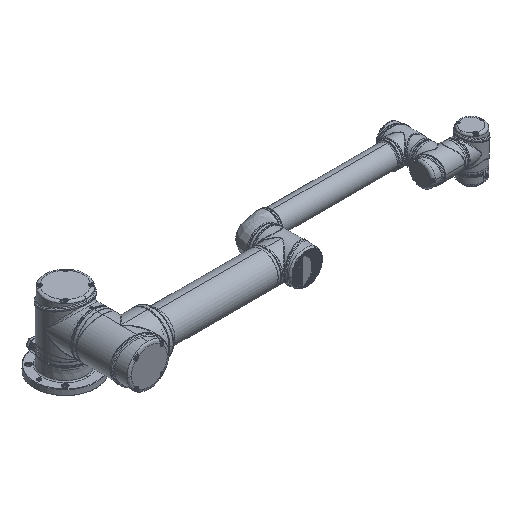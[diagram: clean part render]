
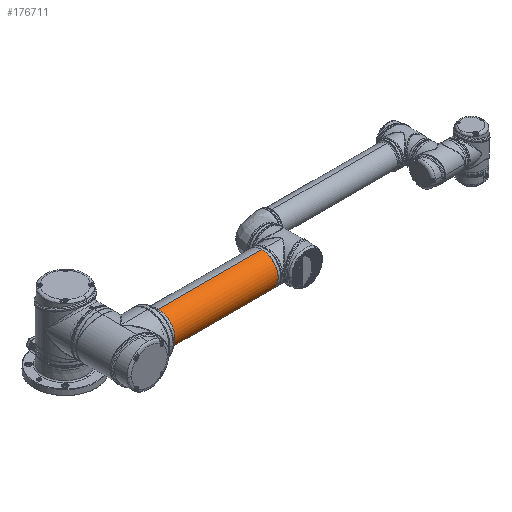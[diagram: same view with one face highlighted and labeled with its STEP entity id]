
A CAD part, isometric view. The second image highlights one B-rep face of the part: STEP entity #176711.
In plain terms, the highlighted cylindrical face has radius 58 mm (diameter 116 mm), a partial arc.
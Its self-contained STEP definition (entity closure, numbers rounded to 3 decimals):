
#211 = CARTESIAN_POINT ( 'NONE',  ( 0., -499.8, -58. ) ) ;
#2434 = CARTESIAN_POINT ( 'NONE',  ( 0., -87., 58. ) ) ;
#7274 = CIRCLE ( 'NONE', #105389, 58. ) ;
#7994 = CARTESIAN_POINT ( 'NONE',  ( 0., -133.238, -58. ) ) ;
#8793 = VERTEX_POINT ( 'NONE', #38305 ) ;
#9478 = DIRECTION ( 'NONE',  ( 0., 0., -1. ) ) ;
#12202 = DIRECTION ( 'NONE',  ( 0., 0., -1. ) ) ;
#14907 = ORIENTED_EDGE ( 'NONE', *, *, #18836, .T. ) ;
#18836 = EDGE_CURVE ( 'NONE', #82486, #8793, #89062, .T. ) ;
#22949 = DIRECTION ( 'NONE',  ( 0., 0., -1. ) ) ;
#32697 = VERTEX_POINT ( 'NONE', #91068 ) ;
#37980 = LINE ( 'NONE', #111994, #171512 ) ;
#38146 = CARTESIAN_POINT ( 'NONE',  ( 0., -499.8, 0. ) ) ;
#38294 = EDGE_CURVE ( 'NONE', #32697, #69810, #73430, .T. ) ;
#38305 = CARTESIAN_POINT ( 'NONE',  ( 0., -499.8, 58. ) ) ;
#40904 = ORIENTED_EDGE ( 'NONE', *, *, #95370, .T. ) ;
#46003 = AXIS2_PLACEMENT_3D ( 'NONE', #80649, #79689, #22949 ) ;
#48182 = EDGE_LOOP ( 'NONE', ( #72392, #106004, #141976, #40904, #14907 ) ) ;
#53653 = CARTESIAN_POINT ( 'NONE',  ( 0., -87., 0. ) ) ;
#59677 = CARTESIAN_POINT ( 'NONE',  ( -58., -499.8, 0. ) ) ;
#69810 = VERTEX_POINT ( 'NONE', #7994 ) ;
#72392 = ORIENTED_EDGE ( 'NONE', *, *, #80297, .F. ) ;
#73430 = CIRCLE ( 'NONE', #107077, 58. ) ;
#79689 = DIRECTION ( 'NONE',  ( 0., 1., 0. ) ) ;
#79896 = AXIS2_PLACEMENT_3D ( 'NONE', #53653, #83515, #9478 ) ;
#80297 = EDGE_CURVE ( 'NONE', #32697, #8793, #123478, .T. ) ;
#80649 = CARTESIAN_POINT ( 'NONE',  ( 0., -499.8, 0. ) ) ;
#82486 = VERTEX_POINT ( 'NONE', #59677 ) ;
#83515 = DIRECTION ( 'NONE',  ( 0., -1., 0. ) ) ;
#85291 = VERTEX_POINT ( 'NONE', #211 ) ;
#89062 = CIRCLE ( 'NONE', #46003, 58. ) ;
#91068 = CARTESIAN_POINT ( 'NONE',  ( 0., -133.238, 58. ) ) ;
#95086 = CYLINDRICAL_SURFACE ( 'NONE', #79896, 58. ) ;
#95370 = EDGE_CURVE ( 'NONE', #85291, #82486, #7274, .T. ) ;
#100049 = DIRECTION ( 'NONE',  ( 0., 0., -1. ) ) ;
#105389 = AXIS2_PLACEMENT_3D ( 'NONE', #38146, #114108, #12202 ) ;
#106004 = ORIENTED_EDGE ( 'NONE', *, *, #38294, .T. ) ;
#107077 = AXIS2_PLACEMENT_3D ( 'NONE', #144299, #129901, #100049 ) ;
#110447 = FACE_OUTER_BOUND ( 'NONE', #48182, .T. ) ;
#111994 = CARTESIAN_POINT ( 'NONE',  ( 0., -87., -58. ) ) ;
#114108 = DIRECTION ( 'NONE',  ( 0., 1., 0. ) ) ;
#117113 = EDGE_CURVE ( 'NONE', #69810, #85291, #37980, .T. ) ;
#123478 = LINE ( 'NONE', #2434, #151106 ) ;
#129901 = DIRECTION ( 'NONE',  ( 0., -1., 0. ) ) ;
#138989 = DIRECTION ( 'NONE',  ( 0., -1., 0. ) ) ;
#141976 = ORIENTED_EDGE ( 'NONE', *, *, #117113, .T. ) ;
#144299 = CARTESIAN_POINT ( 'NONE',  ( 0., -133.238, 0. ) ) ;
#148536 = DIRECTION ( 'NONE',  ( 0., -1., 0. ) ) ;
#151106 = VECTOR ( 'NONE', #148536, 1000. ) ;
#171512 = VECTOR ( 'NONE', #138989, 1000. ) ;
#176711 = ADVANCED_FACE ( 'NONE', ( #110447 ), #95086, .T. ) ;
